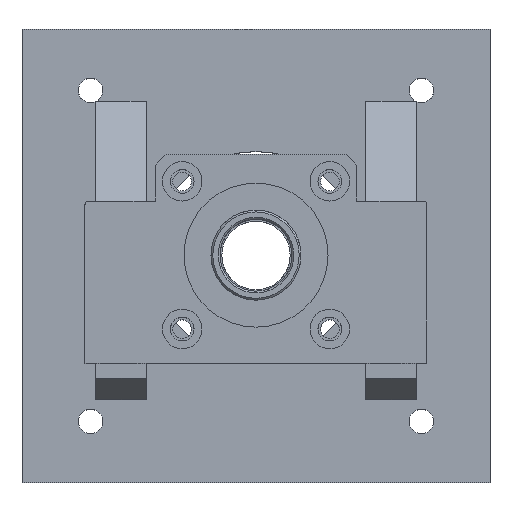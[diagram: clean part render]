
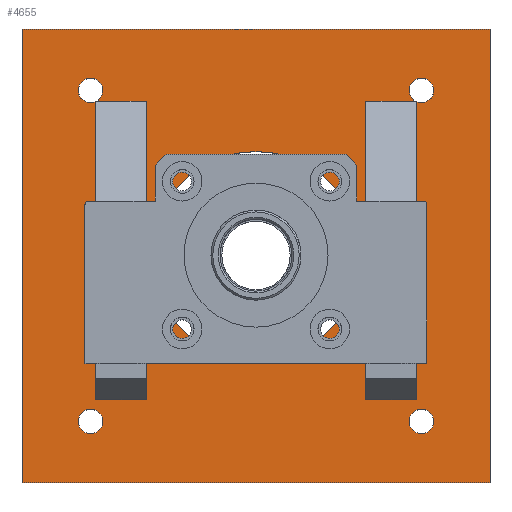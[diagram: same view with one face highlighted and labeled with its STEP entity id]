
A CAD part, top view. The second image highlights one B-rep face of the part: STEP entity #4655.
In plain terms, the highlighted planar face has unit normal (0, 0, 1).
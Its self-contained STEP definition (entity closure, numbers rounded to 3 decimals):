
#2274=DIRECTION('',(0.,-1.,0.));
#2275=VECTOR('',#2274,83.);
#2276=CARTESIAN_POINT('',(30.5,43.,119.));
#2277=LINE('',#2276,#2275);
#2583=DIRECTION('',(-1.,0.,0.));
#2584=VECTOR('',#2583,13.793);
#2585=CARTESIAN_POINT('',(44.293,43.,119.));
#2586=LINE('',#2585,#2584);
#2587=DIRECTION('',(0.,1.,0.));
#2588=VECTOR('',#2587,82.892);
#2589=CARTESIAN_POINT('',(44.5,-40.,119.));
#2590=LINE('',#2589,#2588);
#2607=CARTESIAN_POINT('',(45.962,45.962,119.));
#2608=DIRECTION('',(0.,0.,-1.));
#2609=DIRECTION('',(1.,0.,0.));
#2610=AXIS2_PLACEMENT_3D('',#2607,#2608,#2609);
#2612=CARTESIAN_POINT('',(45.962,45.962,119.));
#2613=DIRECTION('',(0.,0.,-1.));
#2614=DIRECTION('',(-1.,0.,0.));
#2615=AXIS2_PLACEMENT_3D('',#2612,#2613,#2614);
#2617=CARTESIAN_POINT('',(45.962,45.962,119.));
#2618=DIRECTION('',(0.,0.,-1.));
#2619=DIRECTION('',(-0.491,-0.871,0.));
#2620=AXIS2_PLACEMENT_3D('',#2617,#2618,#2619);
#2622=CARTESIAN_POINT('',(45.962,-45.962,119.));
#2623=DIRECTION('',(0.,0.,-1.));
#2624=DIRECTION('',(1.,0.,0.));
#2625=AXIS2_PLACEMENT_3D('',#2622,#2623,#2624);
#2627=CARTESIAN_POINT('',(45.962,-45.962,119.));
#2628=DIRECTION('',(0.,0.,-1.));
#2629=DIRECTION('',(-1.,0.,0.));
#2630=AXIS2_PLACEMENT_3D('',#2627,#2628,#2629);
#2632=CARTESIAN_POINT('',(-45.962,45.962,119.));
#2633=DIRECTION('',(0.,0.,-1.));
#2634=DIRECTION('',(1.,0.,0.));
#2635=AXIS2_PLACEMENT_3D('',#2632,#2633,#2634);
#2637=CARTESIAN_POINT('',(-45.962,45.962,119.));
#2638=DIRECTION('',(0.,0.,-1.));
#2639=DIRECTION('',(-1.,0.,0.));
#2640=AXIS2_PLACEMENT_3D('',#2637,#2638,#2639);
#2642=CARTESIAN_POINT('',(-45.962,45.962,119.));
#2643=DIRECTION('',(0.,0.,-1.));
#2644=DIRECTION('',(0.43,-0.903,0.));
#2645=AXIS2_PLACEMENT_3D('',#2642,#2643,#2644);
#2647=DIRECTION('',(-1.,0.,0.));
#2648=VECTOR('',#2647,14.);
#2649=CARTESIAN_POINT('',(-30.5,-40.,119.));
#2650=LINE('',#2649,#2648);
#2651=DIRECTION('',(1.,0.,0.));
#2652=VECTOR('',#2651,13.793);
#2653=CARTESIAN_POINT('',(-44.293,43.,119.));
#2654=LINE('',#2653,#2652);
#2655=CARTESIAN_POINT('',(-45.962,-45.962,119.));
#2656=DIRECTION('',(0.,0.,-1.));
#2657=DIRECTION('',(1.,0.,0.));
#2658=AXIS2_PLACEMENT_3D('',#2655,#2656,#2657);
#2660=CARTESIAN_POINT('',(-45.962,-45.962,119.));
#2661=DIRECTION('',(0.,0.,-1.));
#2662=DIRECTION('',(-1.,0.,0.));
#2663=AXIS2_PLACEMENT_3D('',#2660,#2661,#2662);
#2665=CARTESIAN_POINT('',(0.,0.,119.));
#2666=DIRECTION('',(0.,0.,-1.));
#2667=DIRECTION('',(1.,0.,0.));
#2668=AXIS2_PLACEMENT_3D('',#2665,#2666,#2667);
#2670=CARTESIAN_POINT('',(0.,0.,119.));
#2671=DIRECTION('',(0.,0.,-1.));
#2672=DIRECTION('',(-1.,0.,0.));
#2673=AXIS2_PLACEMENT_3D('',#2670,#2671,#2672);
#2799=DIRECTION('',(0.,1.,0.));
#2800=VECTOR('',#2799,83.);
#2801=CARTESIAN_POINT('',(-30.5,-40.,119.));
#2802=LINE('',#2801,#2800);
#2827=DIRECTION('',(0.,-1.,0.));
#2828=VECTOR('',#2827,82.892);
#2829=CARTESIAN_POINT('',(-44.5,42.892,119.));
#2830=LINE('',#2829,#2828);
#3718=DIRECTION('',(-1.,0.,0.));
#3719=VECTOR('',#3718,130.);
#3720=CARTESIAN_POINT('',(65.,-63.,119.));
#3721=LINE('',#3720,#3719);
#3726=DIRECTION('',(0.,-1.,0.));
#3727=VECTOR('',#3726,126.);
#3728=CARTESIAN_POINT('',(65.,63.,119.));
#3729=LINE('',#3728,#3727);
#3734=DIRECTION('',(1.,0.,0.));
#3735=VECTOR('',#3734,130.);
#3736=CARTESIAN_POINT('',(-65.,63.,119.));
#3737=LINE('',#3736,#3735);
#3746=DIRECTION('',(0.,1.,0.));
#3747=VECTOR('',#3746,126.);
#3748=CARTESIAN_POINT('',(-65.,-63.,119.));
#3749=LINE('',#3748,#3747);
#3754=DIRECTION('',(1.,0.,0.));
#3755=VECTOR('',#3754,14.);
#3756=CARTESIAN_POINT('',(30.5,-40.,119.));
#3757=LINE('',#3756,#3755);
#3768=CARTESIAN_POINT('',(30.5,43.,119.));
#3769=VERTEX_POINT('',#3768);
#3770=CARTESIAN_POINT('',(30.5,-40.,119.));
#3771=VERTEX_POINT('',#3770);
#3772=CARTESIAN_POINT('',(44.5,-40.,119.));
#3773=CARTESIAN_POINT('',(44.5,42.892,119.));
#3774=VERTEX_POINT('',#3772);
#3775=VERTEX_POINT('',#3773);
#3792=CARTESIAN_POINT('',(-30.5,-40.,119.));
#3793=VERTEX_POINT('',#3792);
#3794=CARTESIAN_POINT('',(-30.5,43.,119.));
#3795=VERTEX_POINT('',#3794);
#3806=CARTESIAN_POINT('',(-44.5,42.892,119.));
#3807=CARTESIAN_POINT('',(-44.5,-40.,119.));
#3808=VERTEX_POINT('',#3806);
#3809=VERTEX_POINT('',#3807);
#3852=CARTESIAN_POINT('',(44.293,43.,119.));
#3853=VERTEX_POINT('',#3852);
#3854=CARTESIAN_POINT('',(-44.293,43.,119.));
#3855=VERTEX_POINT('',#3854);
#3856=CARTESIAN_POINT('',(65.,-63.,119.));
#3857=CARTESIAN_POINT('',(-65.,-63.,119.));
#3858=VERTEX_POINT('',#3856);
#3859=VERTEX_POINT('',#3857);
#3860=CARTESIAN_POINT('',(65.,63.,119.));
#3861=VERTEX_POINT('',#3860);
#3862=CARTESIAN_POINT('',(-65.,63.,119.));
#3863=VERTEX_POINT('',#3862);
#3948=CARTESIAN_POINT('',(-29.,0.,119.));
#3950=VERTEX_POINT('',#3948);
#3952=CARTESIAN_POINT('',(29.,0.,119.));
#3954=VERTEX_POINT('',#3952);
#4163=CARTESIAN_POINT('',(-42.562,-45.962,119.));
#4165=VERTEX_POINT('',#4163);
#4167=CARTESIAN_POINT('',(-49.362,-45.962,119.));
#4169=VERTEX_POINT('',#4167);
#4171=CARTESIAN_POINT('',(-49.362,45.962,119.));
#4173=VERTEX_POINT('',#4171);
#4175=CARTESIAN_POINT('',(-42.562,45.962,119.));
#4177=VERTEX_POINT('',#4175);
#4179=CARTESIAN_POINT('',(49.362,-45.962,119.));
#4181=VERTEX_POINT('',#4179);
#4183=CARTESIAN_POINT('',(42.562,-45.962,119.));
#4185=VERTEX_POINT('',#4183);
#4187=CARTESIAN_POINT('',(42.562,45.962,119.));
#4189=VERTEX_POINT('',#4187);
#4191=CARTESIAN_POINT('',(49.362,45.962,119.));
#4193=VERTEX_POINT('',#4191);
#4593=CARTESIAN_POINT('',(0.,0.,119.));
#4594=DIRECTION('',(0.,0.,1.));
#4595=DIRECTION('',(1.,0.,0.));
#4596=AXIS2_PLACEMENT_3D('',#4593,#4594,#4595);
#4597=PLANE('',#4596);
#4599=ORIENTED_EDGE('',*,*,#4598,.T.);
#4601=ORIENTED_EDGE('',*,*,#4600,.T.);
#4603=ORIENTED_EDGE('',*,*,#4602,.T.);
#4605=ORIENTED_EDGE('',*,*,#4604,.T.);
#4606=EDGE_LOOP('',(#4599,#4601,#4603,#4605));
#4607=FACE_OUTER_BOUND('',#4606,.F.);
#4609=ORIENTED_EDGE('',*,*,#4608,.F.);
#4611=ORIENTED_EDGE('',*,*,#4610,.F.);
#4612=EDGE_LOOP('',(#4609,#4611));
#4613=FACE_BOUND('',#4612,.F.);
#4615=ORIENTED_EDGE('',*,*,#4614,.F.);
#4617=ORIENTED_EDGE('',*,*,#4616,.F.);
#4619=ORIENTED_EDGE('',*,*,#4618,.F.);
#4621=ORIENTED_EDGE('',*,*,#4620,.T.);
#4623=ORIENTED_EDGE('',*,*,#4622,.F.);
#4625=ORIENTED_EDGE('',*,*,#4624,.T.);
#4627=ORIENTED_EDGE('',*,*,#4626,.F.);
#4628=EDGE_LOOP('',(#4615,#4617,#4619,#4621,#4623,#4625,#4627));
#4629=FACE_BOUND('',#4628,.F.);
#4631=ORIENTED_EDGE('',*,*,#4630,.F.);
#4633=ORIENTED_EDGE('',*,*,#4632,.F.);
#4634=EDGE_LOOP('',(#4631,#4633));
#4635=FACE_BOUND('',#4634,.F.);
#4637=ORIENTED_EDGE('',*,*,#4636,.F.);
#4639=ORIENTED_EDGE('',*,*,#4638,.F.);
#4640=EDGE_LOOP('',(#4637,#4639));
#4641=FACE_BOUND('',#4640,.F.);
#4643=ORIENTED_EDGE('',*,*,#4642,.F.);
#4645=ORIENTED_EDGE('',*,*,#4644,.F.);
#4647=ORIENTED_EDGE('',*,*,#4646,.F.);
#4648=ORIENTED_EDGE('',*,*,#4566,.T.);
#4649=ORIENTED_EDGE('',*,*,#4223,.T.);
#4651=ORIENTED_EDGE('',*,*,#4650,.T.);
#4652=ORIENTED_EDGE('',*,*,#4578,.T.);
#4653=EDGE_LOOP('',(#4643,#4645,#4647,#4648,#4649,#4651,#4652));
#4654=FACE_BOUND('',#4653,.F.);
#2611=CIRCLE('',#2610,3.4);
#2616=CIRCLE('',#2615,3.4);
#2621=CIRCLE('',#2620,3.4);
#2626=CIRCLE('',#2625,3.4);
#2631=CIRCLE('',#2630,3.4);
#2636=CIRCLE('',#2635,3.4);
#2641=CIRCLE('',#2640,3.4);
#2646=CIRCLE('',#2645,3.4);
#2659=CIRCLE('',#2658,3.4);
#2664=CIRCLE('',#2663,3.4);
#2669=CIRCLE('',#2668,29.);
#2674=CIRCLE('',#2673,29.);
#4223=EDGE_CURVE('',#3769,#3771,#2277,.T.);
#4566=EDGE_CURVE('',#3853,#3769,#2586,.T.);
#4578=EDGE_CURVE('',#3774,#3775,#2590,.T.);
#4598=EDGE_CURVE('',#3858,#3859,#3721,.T.);
#4600=EDGE_CURVE('',#3859,#3863,#3749,.T.);
#4602=EDGE_CURVE('',#3863,#3861,#3737,.T.);
#4604=EDGE_CURVE('',#3861,#3858,#3729,.T.);
#4608=EDGE_CURVE('',#4181,#4185,#2626,.T.);
#4610=EDGE_CURVE('',#4185,#4181,#2631,.T.);
#4614=EDGE_CURVE('',#4177,#3855,#2636,.T.);
#4616=EDGE_CURVE('',#4173,#4177,#2641,.T.);
#4618=EDGE_CURVE('',#3808,#4173,#2646,.T.);
#4620=EDGE_CURVE('',#3808,#3809,#2830,.T.);
#4622=EDGE_CURVE('',#3793,#3809,#2650,.T.);
#4624=EDGE_CURVE('',#3793,#3795,#2802,.T.);
#4626=EDGE_CURVE('',#3855,#3795,#2654,.T.);
#4630=EDGE_CURVE('',#4165,#4169,#2659,.T.);
#4632=EDGE_CURVE('',#4169,#4165,#2664,.T.);
#4636=EDGE_CURVE('',#3954,#3950,#2669,.T.);
#4638=EDGE_CURVE('',#3950,#3954,#2674,.T.);
#4642=EDGE_CURVE('',#4193,#3775,#2611,.T.);
#4644=EDGE_CURVE('',#4189,#4193,#2616,.T.);
#4646=EDGE_CURVE('',#3853,#4189,#2621,.T.);
#4650=EDGE_CURVE('',#3771,#3774,#3757,.T.);
#4655=ADVANCED_FACE('',(#4607,#4613,#4629,#4635,#4641,#4654),#4597,.T.);
